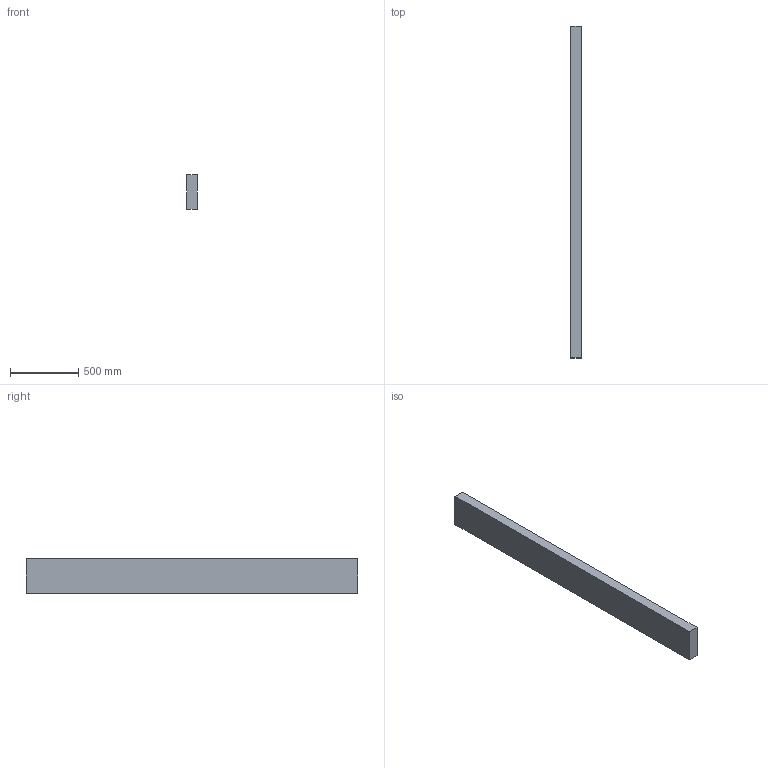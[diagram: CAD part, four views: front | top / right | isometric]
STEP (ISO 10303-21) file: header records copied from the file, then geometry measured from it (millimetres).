
FILE_DESCRIPTION(/* description */ (''),/* implementation_level */ '2;1');
FILE_NAME(/* name */ '3x10x96',/* time_stamp */ '2024-09-20T11:43:58-05:00',/* author */ (''),/* organization */ (''),/* preprocessor_version */ 'ST-DEVELOPER v19.2',/* originating_system */ 'Rhino 8.5',/* authorisation */ '');
FILE_SCHEMA (('CONFIG_CONTROL_DESIGN'));
Length unit declared in the file: inch
Products named in the file (1): Document
Bounding box: 76.2 x 2438.4 x 254 mm (x, y, z)
Volume: 47194744.3 mm3; surface area: 1649029 mm2
Topology: 1 solids, 1 shells, 6 faces, 12 edges, 8 vertices
Faces by surface type: plane 6
Entity records: 226 total; most frequent: CARTESIAN_POINT 40, ORIENTED_EDGE 24, EDGE_CURVE 12, B_SPLINE_CURVE_WITH_KNOTS 12, DIRECTION 10, VERTEX_POINT 8, AXIS2_PLACEMENT_3D 8, ORGANIZATION 7
